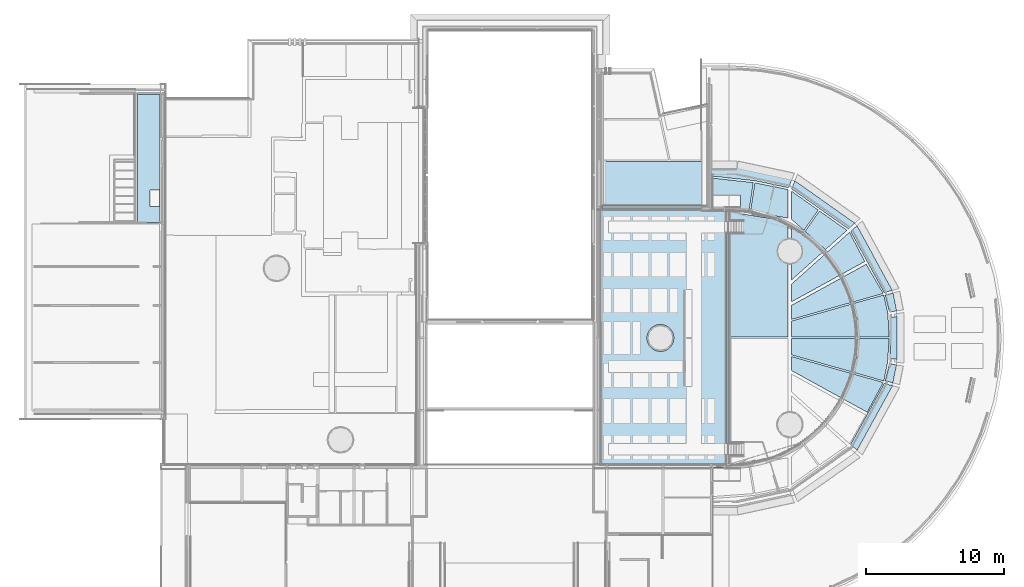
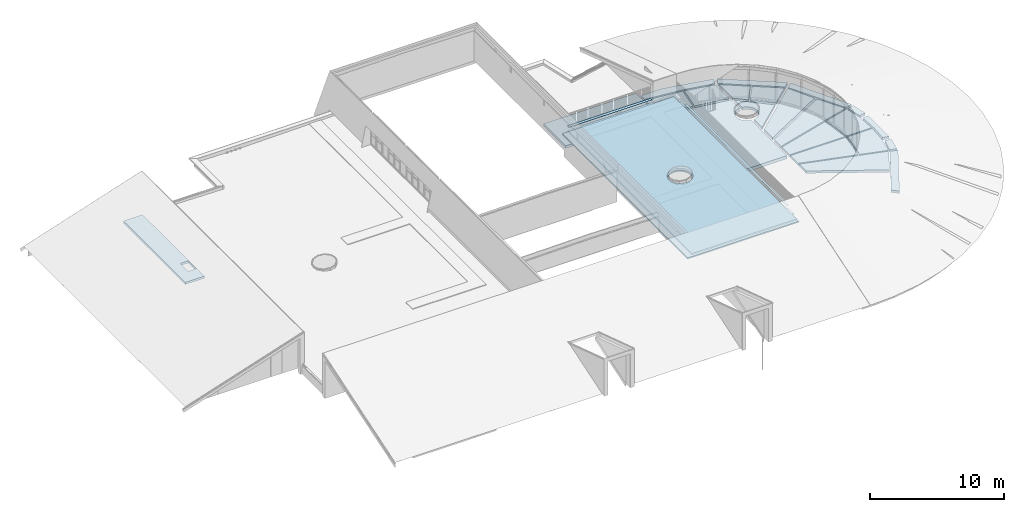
# One storey, part 14 of 66: 26 slabs, 4 openings.
"""IFC2X3 building model written with IfcOpenShell, lengths in millimetres."""

from ifc_helpers import new_model, entity, si_unit, converted_unit, derived_unit, direction, frame, frame_2d, origin, origin_2d_with_axis, place, context, subcontext, project, spatial, polyline, circle_curve, parameter, trimmed, segment, composite_curve, rectangle, circle, outline, extrude, clip, halfspace, material, layer, layer_set, layer_usage, type_object, element, save


model = new_model("IFC2X3")

# Units and contexts
model_context = context("Model", 3, precision=0.01, world=origin(), true_north=direction((6.12303176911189e-17, 1.0)))
body_context = subcontext(model_context, "Body", "Model", "MODEL_VIEW")
ifc_project = project(units=[si_unit("LENGTHUNIT", "METRE", prefix="MILLI"), si_unit("AREAUNIT", "SQUARE_METRE"), si_unit("VOLUMEUNIT", "CUBIC_METRE"), converted_unit("PLANEANGLEUNIT", "DEGREE", entity("IfcRatioMeasure", 0.0174532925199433), si_unit("PLANEANGLEUNIT", "RADIAN"), dimensions=[0, 0, 0, 0, 0, 0, 0]), si_unit("MASSUNIT", "GRAM", prefix="KILO"), derived_unit("MASSDENSITYUNIT", [(si_unit("MASSUNIT", "GRAM", prefix="KILO"), 1), (si_unit("LENGTHUNIT", "METRE"), -3)]), derived_unit("MOMENTOFINERTIAUNIT", [(si_unit("LENGTHUNIT", "METRE"), 4)]), si_unit("TIMEUNIT", "SECOND"), si_unit("FREQUENCYUNIT", "HERTZ"), si_unit("THERMODYNAMICTEMPERATUREUNIT", "DEGREE_CELSIUS"), derived_unit("THERMALTRANSMITTANCEUNIT", [(si_unit("MASSUNIT", "GRAM", prefix="KILO"), 1), (si_unit("THERMODYNAMICTEMPERATUREUNIT", "KELVIN"), -1), (si_unit("TIMEUNIT", "SECOND"), -3)]), derived_unit("VOLUMETRICFLOWRATEUNIT", [(si_unit("LENGTHUNIT", "METRE"), 3), (si_unit("TIMEUNIT", "SECOND"), -1)]), si_unit("ELECTRICCURRENTUNIT", "AMPERE"), si_unit("ELECTRICVOLTAGEUNIT", "VOLT"), si_unit("POWERUNIT", "WATT"), si_unit("FORCEUNIT", "NEWTON", prefix="KILO"), si_unit("ILLUMINANCEUNIT", "LUX"), si_unit("LUMINOUSFLUXUNIT", "LUMEN"), si_unit("LUMINOUSINTENSITYUNIT", "CANDELA"), derived_unit("USERDEFINED", [(si_unit("MASSUNIT", "GRAM", prefix="KILO"), -1), (si_unit("LENGTHUNIT", "METRE"), -2), (si_unit("TIMEUNIT", "SECOND"), 3), (si_unit("LUMINOUSFLUXUNIT", "LUMEN"), 1)]), derived_unit("LINEARVELOCITYUNIT", [(si_unit("LENGTHUNIT", "METRE"), 1), (si_unit("TIMEUNIT", "SECOND"), -1)]), si_unit("PRESSUREUNIT", "PASCAL"), derived_unit("USERDEFINED", [(si_unit("LENGTHUNIT", "METRE"), -2), (si_unit("MASSUNIT", "GRAM", prefix="KILO"), 1), (si_unit("TIMEUNIT", "SECOND"), -2)]), derived_unit("LINEARFORCEUNIT", [(si_unit("MASSUNIT", "GRAM", prefix="KILO"), 1), (si_unit("LENGTHUNIT", "METRE"), 1), (si_unit("TIMEUNIT", "SECOND"), -2), (si_unit("LENGTHUNIT", "METRE"), -1)]), derived_unit("PLANARFORCEUNIT", [(si_unit("MASSUNIT", "GRAM", prefix="KILO"), 1), (si_unit("LENGTHUNIT", "METRE"), 1), (si_unit("TIMEUNIT", "SECOND"), -2), (si_unit("LENGTHUNIT", "METRE"), -2)])], contexts=[model_context])

# Site, building, storey
site_placement = place(None, origin())
site = spatial("IfcSite", under=ifc_project, at=site_placement, Name="Default", CompositionType="ELEMENT")
building_placement = place(site_placement, origin())
building = spatial("IfcBuilding", under=site, at=building_placement, Name="-", CompositionType="ELEMENT")
storey_placement = place(building_placement, frame((0.0, 0.0, 3070.0)))
storey = spatial("IfcBuildingStorey", under=building, at=storey_placement, Name="01 eerste verdieping", CompositionType="ELEMENT", Elevation=3070.00000000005)

# Slab, opening
ifc_material_1 = material(Name="NLRS_h3_staal_verzinkt")
ifc_layer_1 = layer(ifc_material_1, 108.0)
ifc_layer_set_1 = layer_set([ifc_layer_1], Name="Floor:NLRS_23_FL_Trampeziumplaat 106R/750")
ifc_layer_usage_1 = layer_usage(ifc_layer_set_1, "AXIS3", "POSITIVE", 0.0)
slab_type_1 = type_object("IfcSlabType", Name="Floor:NLRS_23_FL_Trampeziumplaat 106R/750", PredefinedType="FLOOR", material=ifc_layer_set_1)
slab_1_placement = place(storey_placement, frame((40907.0668104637, 10235.124095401, 1282.0)))
slab_1 = element("IfcSlab", 1, at=slab_1_placement, inside=storey, type_object=slab_type_1, material=ifc_layer_usage_1, Name="Floor:NLRS_23_FL_Trampeziumplaat 106R/750", ObjectType="Floor:NLRS_23_FL_Trampeziumplaat 106R/750", PredefinedType="FLOOR", context=body_context, shape_type="SweptSolid", body=[
    extrude(rectangle(XDim=9607.05357967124, YDim=18721.2079896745, at=frame_2d((0.0, 0.0), x_axis=(-1.0, 0.0))), frame((4803.52678983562, 9360.60399483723, 108.0), z_axis=(0.0, 0.0, -1.0), x_axis=(-1.0, 0.0, 0.0)), (0.0, 0.0, 1.0), 108.0),
])
opening_1_placement = place(slab_1_placement, frame((4772.29159026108, 9380.56093618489, 108.0)))
element("IfcOpeningElement", 2, at=opening_1_placement, cuts=slab_1, Name="Floor:NLRS_23_FL_Trampeziumplaat 106R/750:2", ObjectType="Opening", context=body_context, shape_type="SweptSolid", body=[
    extrude(circle(Radius=900.0, at=origin_2d_with_axis()), frame((0.0, 0.0, 0.0), z_axis=(0.0, 0.0, -1.0), x_axis=(1.0, 0.0, 0.0)), (0.0, 0.0, 1.0), 108.0),
])

# Slab, openings
ifc_material_2 = material(Name="NLRS_n7_isolatie PIR_gen")
ifc_layer_2 = layer(ifc_material_2, 140.0)
ifc_layer_set_2 = layer_set([ifc_layer_2], Name="Floor:NLRS_23_FL_Pir dakisolatie 140mm")
ifc_layer_usage_2 = layer_usage(ifc_layer_set_2, "AXIS3", "POSITIVE", 0.0)
slab_type_2 = type_object("IfcSlabType", Name="Floor:NLRS_23_FL_Pir dakisolatie 140mm", PredefinedType="FLOOR", material=ifc_layer_set_2)
slab_2_placement = place(storey_placement, frame((41367.6645167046, 10402.124095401, 1390.0)))
slab_2 = element("IfcSlab", 3, at=slab_2_placement, inside=storey, type_object=slab_type_2, material=ifc_layer_usage_2, Name="Floor:NLRS_23_FL_Pir dakisolatie 140mm", ObjectType="Floor:NLRS_23_FL_Pir dakisolatie 140mm", PredefinedType="FLOOR", context=body_context, shape_type="SweptSolid", body=[
    extrude(outline(polyline([(-3258.2279367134, 9277.29134352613), (-3258.2279367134, 9177.79134352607), (-4466.72793671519, 9177.79134352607), (-4466.72793671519, 8401.5811575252), (-4615.72793671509, 8401.5811575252), (-4615.72793671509, 7551.58115752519), (-4466.72793671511, 7551.58115752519), (-4466.72793671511, -7698.41884247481), (-4615.72793671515, -7698.41884247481), (-4615.72793671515, -8548.41884247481), (-4466.72793671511, -8548.41884247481), (-4466.72793671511, -9277.29134352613), (4615.72793671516, -9277.29134352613), (4615.72793671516, 9277.29134352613), (-3258.2279367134, 9277.29134352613)])), frame((4615.72793671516, 9277.29134352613, 140.0), z_axis=(0.0, 0.0, -1.0), x_axis=(-1.0, 0.0, 0.0)), (0.0, 0.0, 1.0), 140.0),
])
opening_2_placement = place(slab_2_placement, origin())
element("IfcOpeningElement", 4, at=opening_2_placement, cuts=slab_2, ObjectType="Opening", context=body_context, shape_type="SweptSolid", body=[
    extrude(rectangle(XDim=2278.80772812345, YDim=360.0, at=origin_2d_with_axis()), frame((8438.3020093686, 18595.3712671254, -1390.0)), (0.0, 0.0, 1.0), 4477.65236779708),
])
opening_3_placement = place(slab_2_placement, frame((4311.69388402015, 9213.93563356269, 140.0)))
element("IfcOpeningElement", 5, at=opening_3_placement, cuts=slab_2, Name="Floor:NLRS_23_FL_Pir dakisolatie 140mm:2", ObjectType="Opening", context=body_context, shape_type="SweptSolid", body=[
    extrude(circle(Radius=970.0, at=origin_2d_with_axis()), frame((0.0, 0.0, 0.0), z_axis=(0.0, 0.0, -1.0), x_axis=(1.0, 0.0, 0.0)), (0.0, 0.0, 1.0), 140.0),
])

# Slabs
ifc_material_3 = material(Name="NLRS_n2_bitumen_dak bedekking")
ifc_layer_3 = layer(ifc_material_3, 6.0)
ifc_layer_set_3 = layer_set([ifc_layer_3], Name="Floor:NLRS_23_FL_Bitumen dakbedekking")
ifc_layer_usage_3 = layer_usage(ifc_layer_set_3, "AXIS3", "POSITIVE", 0.0)
slab_type_3 = type_object("IfcSlabType", Name="Floor:NLRS_23_FL_Bitumen dakbedekking", PredefinedType="FLOOR", material=ifc_layer_set_3)
slab_3_placement = place(storey_placement, origin())
element("IfcSlab", 6, at=slab_3_placement, inside=storey, type_object=slab_type_3, material=ifc_layer_usage_3, Name="Floor:NLRS_23_FL_Bitumen dakbedekking", ObjectType="Floor:NLRS_23_FL_Bitumen dakbedekking", PredefinedType="FLOOR", context=body_context, shape_type="Clipping", body=[
    clip(clip(extrude(rectangle(XDim=240.208242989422, YDim=7191.40535418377, at=frame_2d((0.0, -4.32009983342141e-12), x_axis=(1.0, 0.0))), frame((45070.8599849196, 29076.7067824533, 1755.0), z_axis=(0.0, 0.0416305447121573, -0.999133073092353), x_axis=(0.0, 0.999133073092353, 0.0416305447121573)), (-0.0416305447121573, 0.0, 0.999133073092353), 6.00520607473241), halfspace(frame((45070.8599849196, 29076.7067824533, 1749.0), z_axis=(0.0, 0.0416305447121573, -0.999133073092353), x_axis=(0.0, -0.999133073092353, -0.0416305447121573)), False)), halfspace(frame((45070.8599849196, 29076.7067824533, 1755.0), z_axis=(0.0, -0.0416305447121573, 0.999133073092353), x_axis=(0.0, -0.999133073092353, -0.0416305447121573)), False)),
])
ifc_layer_usage_4 = layer_usage(ifc_layer_set_3, "AXIS3", "POSITIVE", 0.0)
slab_type_4 = type_object("IfcSlabType", Name="Floor:NLRS_23_FL_Bitumen dakbedekking", PredefinedType="FLOOR", material=ifc_layer_set_3)
slab_4_placement = place(storey_placement, origin())
element("IfcSlab", 7, at=slab_4_placement, inside=storey, type_object=slab_type_4, material=ifc_layer_usage_4, Name="Floor:NLRS_23_FL_Bitumen dakbedekking", ObjectType="Floor:NLRS_23_FL_Bitumen dakbedekking", PredefinedType="FLOOR", context=body_context, shape_type="SweptSolid", body=[
    extrude(rectangle(XDim=15250.0, YDim=212.000000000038, at=frame_2d((-2.27373675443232e-12, -3.46531692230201e-11), x_axis=(1.0, 0.0))), frame((50556.1203901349, 19605.9965964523, 1750.04321141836), z_axis=(0.0, 0.0, -1.0), x_axis=(0.0, 1.0, 0.0)), (0.0, 0.0, 1.0), 6.00000000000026),
])

# Slab, opening
ifc_material_4 = material(Name="NLRS_i2_hout naaldhout vuren_gen")
ifc_layer_4 = layer(ifc_material_4, 196.0)
ifc_layer_set_4 = layer_set([ifc_layer_4], Name="Floor:NLRS_23_FL_Houten balk laag 196mm")
ifc_layer_usage_5 = layer_usage(ifc_layer_set_4, "AXIS3", "POSITIVE", 0.0)
slab_type_5 = type_object("IfcSlabType", Name="Floor:NLRS_23_FL_Houten balk laag 196mm", PredefinedType="FLOOR", material=ifc_layer_set_4)
slab_5_placement = place(storey_placement, frame((7800.03026943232, 27992.4865767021, -214.0)))
slab_5 = element("IfcSlab", 8, at=slab_5_placement, inside=storey, type_object=slab_type_5, material=ifc_layer_usage_5, Name="Floor:NLRS_23_FL_Houten balk laag 196mm", ObjectType="Floor:NLRS_23_FL_Houten balk laag 196mm", PredefinedType="FLOOR", context=body_context, shape_type="SweptSolid", body=[
    extrude(rectangle(XDim=1649.96973056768, YDim=9252.00000000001, at=origin_2d_with_axis()), frame((824.984865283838, 4626.0, 196.0), z_axis=(0.0, 0.0, -1.0), x_axis=(-1.0, 0.0, 0.0)), (0.0, 0.0, 1.0), 196.0),
])
opening_4_placement = place(slab_5_placement, frame((1254.96973056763, 1733.00622316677, 196.0)))
element("IfcOpeningElement", 9, at=opening_4_placement, cuts=slab_5, Name="Floor:NLRS_23_FL_Houten balk laag 196mm:2", ObjectType="Opening", context=body_context, shape_type="SweptSolid", body=[
    extrude(rectangle(XDim=1190.0, YDim=689.999999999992, at=origin_2d_with_axis()), frame((0.0, 0.0, 0.0), z_axis=(0.0, 0.0, -1.0), x_axis=(0.0, -1.0, 0.0)), (0.0, 0.0, 1.0), 196.0),
])

# Slabs
ifc_material_5 = material(Name="NLRS_i4_hout_multiplex")
ifc_layer_5 = layer(ifc_material_5, 18.0)
ifc_layer_6 = layer(ifc_material_4, 271.0)
ifc_layer_set_5 = layer_set([ifc_layer_5, ifc_layer_6], Name="Floor:NLRS_23_FL_Houten balk laag 271mm met multiplex")
ifc_layer_usage_6 = layer_usage(ifc_layer_set_5, "AXIS3", "POSITIVE", 0.0)
slab_type_6 = type_object("IfcSlabType", Name="Floor:NLRS_23_FL_Houten balk laag 271mm met multiplex", PredefinedType="FLOOR", material=ifc_layer_set_5)
slab_6_placement = place(storey_placement, origin())
element("IfcSlab", 10, at=slab_6_placement, inside=storey, type_object=slab_type_6, material=ifc_layer_usage_6, Name="Floor:NLRS_23_FL_Houten balk laag 271mm met multiplex", ObjectType="Floor:NLRS_23_FL_Houten balk laag 271mm met multiplex", PredefinedType="FLOOR", context=body_context, shape_type="SweptSolid", body=[
    extrude(outline(composite_curve([segment(polyline([(-3392.31329752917, 1472.66919885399), (-4118.0121933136, -2945.33839770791)]), True, "CONTINUOUS"), segment(polyline([(-4118.01219331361, -2945.3383977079), (4992.32607995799, -2945.3383977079)]), True, "CONTINUOUS"), segment(polyline([(4992.32607995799, -2945.33839770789), (4992.32607995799, 1472.66919885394)]), True, "CONTINUOUS"), segment(polyline([(4992.32607995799, 1472.66919885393), (-345.486637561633, 1472.66919885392)]), True, "CONTINUOUS"), segment(trimmed(circle_curve(frame_2d((-1237.16333453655, 1594.78663443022), x_axis=(-0.99075188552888, -0.13568603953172)), 900.000000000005), [parameter(0.0)], [parameter(164.403415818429)], True, "PARAMETER"), False, "CONTINUOUS"), segment(polyline([(-2128.84003151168, 1472.669198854), (-3392.31329752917, 1472.669198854)]), True, "CONTINUOUS")], self_intersect=False)), frame((53464.4587878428, 24663.3858089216, 100.0), z_axis=(0.0, 0.0, 1.0), x_axis=(0.0, -1.0, 0.0)), (0.0, 0.0, -1.0), 289.0),
])
ifc_layer_7 = layer(ifc_material_4, 221.0)
ifc_layer_set_6 = layer_set([ifc_layer_7], Name="Floor:NLRS_23_FL_Houten balk laag 221mm")
ifc_layer_usage_7 = layer_usage(ifc_layer_set_6, "AXIS3", "POSITIVE", 0.0)
slab_type_7 = type_object("IfcSlabType", Name="Floor:NLRS_23_FL_Houten balk laag 221mm", PredefinedType="FLOOR", material=ifc_layer_set_6)
slab_7_placement = place(storey_placement, origin())
element("IfcSlab", 11, at=slab_7_placement, inside=storey, type_object=slab_type_7, material=ifc_layer_usage_7, Name="Floor:NLRS_23_FL_Houten balk laag 221mm", ObjectType="Floor:NLRS_23_FL_Houten balk laag 221mm", PredefinedType="FLOOR", context=body_context, shape_type="SweptSolid", body=[
    extrude(outline(polyline([(12.4997273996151, -1663.15129844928), (1271.89547079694, -1663.15129844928), (935.675566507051, 1385.11074148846), (-1167.46399273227, 1062.4944523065), (-1065.10649937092, 439.348701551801), (12.4997273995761, 439.348701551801), (12.4997273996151, -1663.15129844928)])), frame((51024.7716885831, 29934.4956351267, 82.0), z_axis=(0.0, 0.0, -1.0), x_axis=(0.0, 1.0, 0.0)), (0.0, 0.0, 1.0), 221.0),
])
ifc_layer_usage_8 = layer_usage(ifc_layer_set_6, "AXIS3", "POSITIVE", 0.0)
slab_type_8 = type_object("IfcSlabType", Name="Floor:NLRS_23_FL_Houten balk laag 221mm", PredefinedType="FLOOR", material=ifc_layer_set_6)
slab_8_placement = place(storey_placement, origin())
element("IfcSlab", 12, at=slab_8_placement, inside=storey, type_object=slab_type_8, material=ifc_layer_usage_8, Name="Floor:NLRS_23_FL_Houten balk laag 221mm", ObjectType="Floor:NLRS_23_FL_Houten balk laag 221mm", PredefinedType="FLOOR", context=body_context, shape_type="SweptSolid", body=[
    extrude(outline(polyline([(-798.507201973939, -1286.44717373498), (1267.83735278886, -1286.44717373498), (818.674533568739, 1448.02680567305), (-1288.00468438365, 1124.86754179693), (-798.507201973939, -1286.44717373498)])), frame((53643.8444464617, 29567.8755810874, 82.0), z_axis=(0.0, 0.0, -1.0), x_axis=(0.0, -1.0, 0.0)), (0.0, 0.0, 1.0), 221.0),
])
ifc_layer_usage_9 = layer_usage(ifc_layer_set_6, "AXIS3", "POSITIVE", 0.0)
slab_type_9 = type_object("IfcSlabType", Name="Floor:NLRS_23_FL_Houten balk laag 221mm", PredefinedType="FLOOR", material=ifc_layer_set_6)
slab_9_placement = place(storey_placement, origin())
element("IfcSlab", 13, at=slab_9_placement, inside=storey, type_object=slab_type_9, material=ifc_layer_usage_9, Name="Floor:NLRS_23_FL_Houten balk laag 221mm", ObjectType="Floor:NLRS_23_FL_Houten balk laag 221mm", PredefinedType="FLOOR", context=body_context, shape_type="SweptSolid", body=[
    extrude(outline(polyline([(-480.596640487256, -707.396368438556), (1561.45442916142, -707.396368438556), (196.31586697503, 1227.18924394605), (-1277.17365564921, 187.603492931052), (-480.596640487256, -707.396368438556)])), frame((55884.5243551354, 28685.0111625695, 82.0), z_axis=(0.0, 0.0, -1.0), x_axis=(0.0, 1.0, 0.0)), (0.0, 0.0, 1.0), 221.0),
])
ifc_layer_usage_10 = layer_usage(ifc_layer_set_6, "AXIS3", "POSITIVE", 0.0)
slab_type_10 = type_object("IfcSlabType", Name="Floor:NLRS_23_FL_Houten balk laag 221mm", PredefinedType="FLOOR", material=ifc_layer_set_6)
slab_10_placement = place(storey_placement, origin())
element("IfcSlab", 14, at=slab_10_placement, inside=storey, type_object=slab_type_10, material=ifc_layer_usage_10, Name="Floor:NLRS_23_FL_Houten balk laag 221mm", ObjectType="Floor:NLRS_23_FL_Houten balk laag 221mm", PredefinedType="FLOOR", context=body_context, shape_type="SweptSolid", body=[
    extrude(outline(composite_curve([segment(polyline([(-2065.03412549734, 458.845272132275), (-12.2836152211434, -1835.38108852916)]), True, "CONTINUOUS"), segment(polyline([(-12.283615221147, -1835.38108852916), (2029.64741221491, 458.845272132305)]), True, "CONTINUOUS"), segment(polyline([(2029.64741221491, 458.845272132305), (916.652510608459, 458.845272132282)]), True, "CONTINUOUS"), segment(trimmed(circle_curve(frame_2d((23.835164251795, 572.322961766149), x_axis=(-0.992019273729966, -0.126086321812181)), 900.0), [parameter(0.0)], [parameter(165.513012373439)], True, "PARAMETER"), False, "CONTINUOUS"), segment(polyline([(-868.982182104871, 458.845272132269), (-2065.03412549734, 458.845272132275)]), True, "CONTINUOUS")], self_intersect=False)), frame((55635.9732588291, 25880.2501283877, 82.0), z_axis=(0.0, 0.0, 1.0), x_axis=(0.0, 1.0, 0.0)), (0.0, 0.0, -1.0), 221.0),
])
ifc_layer_usage_11 = layer_usage(ifc_layer_set_6, "AXIS3", "POSITIVE", 0.0)
slab_type_11 = type_object("IfcSlabType", Name="Floor:NLRS_23_FL_Houten balk laag 221mm", PredefinedType="FLOOR", material=ifc_layer_set_6)
slab_11_placement = place(storey_placement, origin())
element("IfcSlab", 15, at=slab_11_placement, inside=storey, type_object=slab_type_11, material=ifc_layer_usage_11, Name="Floor:NLRS_23_FL_Houten balk laag 221mm", ObjectType="Floor:NLRS_23_FL_Houten balk laag 221mm", PredefinedType="FLOOR", context=body_context, shape_type="SweptSolid", body=[
    extrude(outline(polyline([(-2312.81758700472, -2375.94232121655), (-1025.26511149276, -2375.94232121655), (2732.27077118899, 1823.61229100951), (605.811927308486, 2928.27235142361), (-2312.81758700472, -2375.94232121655)])), frame((57553.0703079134, 24545.2733364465, 82.0), z_axis=(0.0, 0.0, -1.0), x_axis=(0.0, 1.0, 0.0)), (0.0, 0.0, 1.0), 221.0),
])
ifc_layer_usage_12 = layer_usage(ifc_layer_set_6, "AXIS3", "POSITIVE", 0.0)
slab_type_12 = type_object("IfcSlabType", Name="Floor:NLRS_23_FL_Houten balk laag 221mm", PredefinedType="FLOOR", material=ifc_layer_set_6)
slab_12_placement = place(storey_placement, origin())
element("IfcSlab", 16, at=slab_12_placement, inside=storey, type_object=slab_type_12, material=ifc_layer_usage_12, Name="Floor:NLRS_23_FL_Houten balk laag 221mm", ObjectType="Floor:NLRS_23_FL_Houten balk laag 221mm", PredefinedType="FLOOR", context=body_context, shape_type="SweptSolid", body=[
    extrude(outline(polyline([(-1726.86440109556, -3013.42206357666), (-702.135681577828, -3013.42206357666), (2274.88730092, 2396.91484527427), (154.112781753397, 3629.92928187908), (-1726.86440109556, -3013.42206357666)])), frame((58190.5500502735, 22683.4855443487, 82.0), z_axis=(0.0, 0.0, -1.0), x_axis=(0.0, 1.0, 0.0)), (0.0, 0.0, 1.0), 221.0),
])
ifc_layer_usage_13 = layer_usage(ifc_layer_set_6, "AXIS3", "POSITIVE", 0.0)
slab_type_13 = type_object("IfcSlabType", Name="Floor:NLRS_23_FL_Houten balk laag 221mm", PredefinedType="FLOOR", material=ifc_layer_set_6)
slab_13_placement = place(storey_placement, origin())
element("IfcSlab", 17, at=slab_13_placement, inside=storey, type_object=slab_type_13, material=ifc_layer_usage_13, Name="Floor:NLRS_23_FL_Houten balk laag 221mm", ObjectType="Floor:NLRS_23_FL_Houten balk laag 221mm", PredefinedType="FLOOR", context=body_context, shape_type="SweptSolid", body=[
    extrude(outline(polyline([(-1027.54110758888, -1446.13835587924), (1132.41581503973, -1446.13835587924), (1476.54709081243, 1017.68130508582), (-643.125642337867, 1617.83864117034), (-938.296155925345, 256.756765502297), (-1027.54110758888, -1446.13835587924)])), frame((61218.8974312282, 21117.1980848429, 82.0), z_axis=(0.0, 0.0, -1.0), x_axis=(-1.0, 0.0, 0.0)), (0.0, 0.0, 1.0), 221.0),
])
ifc_layer_usage_14 = layer_usage(ifc_layer_set_6, "AXIS3", "POSITIVE", 0.0)
slab_type_14 = type_object("IfcSlabType", Name="Floor:NLRS_23_FL_Houten balk laag 221mm", PredefinedType="FLOOR", material=ifc_layer_set_6)
slab_14_placement = place(storey_placement, origin())
element("IfcSlab", 18, at=slab_14_placement, inside=storey, type_object=slab_type_14, material=ifc_layer_usage_14, Name="Floor:NLRS_23_FL_Houten balk laag 221mm", ObjectType="Floor:NLRS_23_FL_Houten balk laag 221mm", PredefinedType="FLOOR", context=body_context, shape_type="SweptSolid", body=[
    extrude(outline(polyline([(-1125.48359728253, -1446.45509291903), (1029.47121113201, -1446.45509291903), (920.316313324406, 256.252655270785), (647.627591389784, 1618.00757401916), (-1471.93151856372, 1018.64995654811), (-1125.48359728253, -1446.45509291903)])), frame((61215.3255404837, 18114.6046360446, 82.0), z_axis=(0.0, 0.0, -1.0), x_axis=(1.0, 0.0, 0.0)), (0.0, 0.0, 1.0), 221.0),
])
ifc_layer_usage_15 = layer_usage(ifc_layer_set_6, "AXIS3", "POSITIVE", 0.0)
slab_type_15 = type_object("IfcSlabType", Name="Floor:NLRS_23_FL_Houten balk laag 221mm", PredefinedType="FLOOR", material=ifc_layer_set_6)
slab_15_placement = place(storey_placement, origin())
element("IfcSlab", 19, at=slab_15_placement, inside=storey, type_object=slab_type_15, material=ifc_layer_usage_15, Name="Floor:NLRS_23_FL_Houten balk laag 221mm", ObjectType="Floor:NLRS_23_FL_Houten balk laag 221mm", PredefinedType="FLOOR", context=body_context, shape_type="SweptSolid", body=[
    extrude(outline(polyline([(711.126054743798, -3032.49210346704), (1737.84721010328, -3032.49210346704), (-144.68914603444, 3614.42133369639), (-2304.28411881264, 2450.56287323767), (711.126054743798, -3032.49210346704)])), frame((58209.6200901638, 16538.0105276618, 82.0), z_axis=(0.0, 0.0, -1.0), x_axis=(0.0, 1.0, 0.0)), (0.0, 0.0, 1.0), 221.0),
])
ifc_layer_usage_16 = layer_usage(ifc_layer_set_6, "AXIS3", "POSITIVE", 0.0)
slab_type_16 = type_object("IfcSlabType", Name="Floor:NLRS_23_FL_Houten balk laag 221mm", PredefinedType="FLOOR", material=ifc_layer_set_6)
slab_16_placement = place(storey_placement, origin())
element("IfcSlab", 20, at=slab_16_placement, inside=storey, type_object=slab_type_16, material=ifc_layer_usage_16, Name="Floor:NLRS_23_FL_Houten balk laag 221mm", ObjectType="Floor:NLRS_23_FL_Houten balk laag 221mm", PredefinedType="FLOOR", context=body_context, shape_type="SweptSolid", body=[
    extrude(rectangle(XDim=3329.03504939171, YDim=8000.55357966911, at=frame_2d((2.1600499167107e-12, 0.0), x_axis=(1.0, 0.0))), frame((45246.3436003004, 30719.224307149, 82.0), z_axis=(0.0, 0.0, -1.0), x_axis=(0.0, 1.0, 0.0)), (0.0, 0.0, 1.0), 221.0),
])
ifc_layer_usage_17 = layer_usage(ifc_layer_set_6, "AXIS3", "POSITIVE", 0.0)
slab_type_17 = type_object("IfcSlabType", Name="Floor:NLRS_23_FL_Houten balk laag 221mm", PredefinedType="FLOOR", material=ifc_layer_set_6)
slab_17_placement = place(storey_placement, origin())
element("IfcSlab", 21, at=slab_17_placement, inside=storey, type_object=slab_type_17, material=ifc_layer_usage_17, Name="Floor:NLRS_23_FL_Houten balk laag 221mm", ObjectType="Floor:NLRS_23_FL_Houten balk laag 221mm", PredefinedType="FLOOR", context=body_context, shape_type="SweptSolid", body=[
    extrude(outline(polyline([(-899.620161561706, -2302.77564892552), (271.617091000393, -2302.77564892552), (1527.6232321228, 2133.26438580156), (-899.620161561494, 2472.28691204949), (-899.620161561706, -2302.77564892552)])), frame((57479.9036356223, 20570.6798905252, 82.0), z_axis=(0.0, 0.0, -1.0), x_axis=(0.0, 1.0, 0.0)), (0.0, 0.0, 1.0), 221.0),
])
ifc_layer_usage_18 = layer_usage(ifc_layer_set_6, "AXIS3", "POSITIVE", 0.0)
slab_type_18 = type_object("IfcSlabType", Name="Floor:NLRS_23_FL_Houten balk laag 221mm", PredefinedType="FLOOR", material=ifc_layer_set_6)
slab_18_placement = place(storey_placement, origin())
element("IfcSlab", 22, at=slab_18_placement, inside=storey, type_object=slab_type_18, material=ifc_layer_usage_18, Name="Floor:NLRS_23_FL_Houten balk laag 221mm", ObjectType="Floor:NLRS_23_FL_Houten balk laag 221mm", PredefinedType="FLOOR", context=body_context, shape_type="SweptSolid", body=[
    extrude(outline(polyline([(-271.259883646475, -2303.90968622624), (899.61546309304, -2303.90968622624), (899.615463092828, 2474.49720313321), (-1527.9710425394, 2133.32216931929), (-271.259883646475, -2303.90968622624)])), frame((57481.037672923, 18661.4442658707, 82.0), z_axis=(0.0, 0.0, -1.0), x_axis=(0.0, 1.0, 0.0)), (0.0, 0.0, 1.0), 221.0),
])
ifc_layer_usage_19 = layer_usage(ifc_layer_set_6, "AXIS3", "POSITIVE", 0.0)
slab_type_19 = type_object("IfcSlabType", Name="Floor:NLRS_23_FL_Houten balk laag 221mm", PredefinedType="FLOOR", material=ifc_layer_set_6)
slab_19_placement = place(storey_placement, origin())
element("IfcSlab", 23, at=slab_19_placement, inside=storey, type_object=slab_type_19, material=ifc_layer_usage_19, Name="Floor:NLRS_23_FL_Houten balk laag 221mm", ObjectType="Floor:NLRS_23_FL_Houten balk laag 221mm", PredefinedType="FLOOR", context=body_context, shape_type="SweptSolid", body=[
    extrude(outline(polyline([(-1101.20387427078, -962.382781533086), (1339.35281372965, -962.382781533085), (866.111600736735, 1075.72378434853), (-1104.26054019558, 849.041778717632), (-1101.20387427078, -962.382781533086)])), frame((57546.4838479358, 27393.7473942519, 82.0), z_axis=(0.0, 0.0, -1.0), x_axis=(0.818076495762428, -0.575109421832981, 0.0)), (0.0, 0.0, 1.0), 221.0),
])
ifc_layer_usage_20 = layer_usage(ifc_layer_set_6, "AXIS3", "POSITIVE", 0.0)
slab_type_20 = type_object("IfcSlabType", Name="Floor:NLRS_23_FL_Houten balk laag 221mm", PredefinedType="FLOOR", material=ifc_layer_set_6)
slab_20_placement = place(storey_placement, origin())
element("IfcSlab", 24, at=slab_20_placement, inside=storey, type_object=slab_type_20, material=ifc_layer_usage_20, Name="Floor:NLRS_23_FL_Houten balk laag 221mm", ObjectType="Floor:NLRS_23_FL_Houten balk laag 221mm", PredefinedType="FLOOR", context=body_context, shape_type="SweptSolid", body=[
    extrude(outline(polyline([(-2668.95226997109, -308.90057842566), (2669.41203432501, -308.90057842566), (2526.40580232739, 311.256607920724), (-2526.8655666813, 306.544548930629), (-2668.95226997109, -308.90057842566)])), frame((60939.7023062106, 13966.4248459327, 82.0), z_axis=(0.0, 0.0, -1.0), x_axis=(-0.48194527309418, -0.876201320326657, 0.0)), (0.0, 0.0, 1.0), 221.0),
])
ifc_layer_usage_21 = layer_usage(ifc_layer_set_6, "AXIS3", "POSITIVE", 0.0)
slab_type_21 = type_object("IfcSlabType", Name="Floor:NLRS_23_FL_Houten balk laag 221mm", PredefinedType="FLOOR", material=ifc_layer_set_6)
slab_21_placement = place(storey_placement, origin())
element("IfcSlab", 25, at=slab_21_placement, inside=storey, type_object=slab_type_21, material=ifc_layer_usage_21, Name="Floor:NLRS_23_FL_Houten balk laag 221mm", ObjectType="Floor:NLRS_23_FL_Houten balk laag 221mm", PredefinedType="FLOOR", context=body_context, shape_type="SweptSolid", body=[
    extrude(outline(polyline([(-213.795027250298, -647.456114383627), (304.641606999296, -647.456114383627), (241.544124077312, 683.461998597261), (-332.390703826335, 611.450230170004), (-213.795027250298, -647.456114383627)])), frame((62382.1298808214, 17071.1373565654, 82.0), z_axis=(0.0, 0.0, -1.0), x_axis=(0.988596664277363, -0.15058763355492, 0.0)), (0.0, 0.0, 1.0), 221.0),
])
ifc_layer_usage_22 = layer_usage(ifc_layer_set_6, "AXIS3", "POSITIVE", 0.0)
slab_type_22 = type_object("IfcSlabType", Name="Floor:NLRS_23_FL_Houten balk laag 221mm", PredefinedType="FLOOR", material=ifc_layer_set_6)
slab_22_placement = place(storey_placement, origin())
element("IfcSlab", 26, at=slab_22_placement, inside=storey, type_object=slab_type_22, material=ifc_layer_usage_22, Name="Floor:NLRS_23_FL_Houten balk laag 221mm", ObjectType="Floor:NLRS_23_FL_Houten balk laag 221mm", PredefinedType="FLOOR", context=body_context, shape_type="SweptSolid", body=[
    extrude(outline(polyline([(-1563.11660010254, -289.887655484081), (1547.30031808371, -289.887655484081), (1469.94584834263, 217.938710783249), (31.6432552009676, 143.917020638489), (-1485.77282152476, 217.919579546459), (-1563.11660010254, -289.887655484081)])), frame((62526.8193967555, 19608.1507333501, 82.0), z_axis=(0.0, 0.0, -1.0), x_axis=(0.0, -1.0, 0.0)), (0.0, 0.0, 1.0), 221.0),
])
ifc_layer_usage_23 = layer_usage(ifc_layer_set_6, "AXIS3", "POSITIVE", 0.0)
slab_type_23 = type_object("IfcSlabType", Name="Floor:NLRS_23_FL_Houten balk laag 221mm", PredefinedType="FLOOR", material=ifc_layer_set_6)
slab_23_placement = place(storey_placement, origin())
element("IfcSlab", 27, at=slab_23_placement, inside=storey, type_object=slab_type_23, material=ifc_layer_usage_23, Name="Floor:NLRS_23_FL_Houten balk laag 221mm", ObjectType="Floor:NLRS_23_FL_Houten balk laag 221mm", PredefinedType="FLOOR", context=body_context, shape_type="SweptSolid", body=[
    extrude(outline(polyline([(-670.267351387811, -277.985855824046), (658.183757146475, -277.985855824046), (634.915861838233, 245.089187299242), (-622.83226759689, 310.882524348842), (-670.267351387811, -277.985855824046)])), frame((62385.5558757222, 22162.8327332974, 82.0), z_axis=(0.0, 0.0, -1.0), x_axis=(0.19435639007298, -0.980930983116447, 0.0)), (0.0, 0.0, 1.0), 221.0),
])
ifc_layer_usage_24 = layer_usage(ifc_layer_set_6, "AXIS3", "POSITIVE", 0.0)
slab_type_24 = type_object("IfcSlabType", Name="Floor:NLRS_23_FL_Houten balk laag 221mm", PredefinedType="FLOOR", material=ifc_layer_set_6)
slab_24_placement = place(storey_placement, origin())
element("IfcSlab", 28, at=slab_24_placement, inside=storey, type_object=slab_type_24, material=ifc_layer_usage_24, Name="Floor:NLRS_23_FL_Houten balk laag 221mm", ObjectType="Floor:NLRS_23_FL_Houten balk laag 221mm", PredefinedType="FLOOR", context=body_context, shape_type="SweptSolid", body=[
    extrude(outline(polyline([(-2668.25839839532, -300.624086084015), (2663.64138511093, -300.624086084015), (2529.4093667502, 292.310448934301), (-2524.79235346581, 308.937723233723), (-2668.25839839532, -300.624086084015)])), frame((60933.1288502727, 25262.6694646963, 82.0), z_axis=(0.0, 0.0, -1.0), x_axis=(0.478208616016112, -0.878246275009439, 0.0)), (0.0, 0.0, 1.0), 221.0),
])
ifc_layer_usage_25 = layer_usage(ifc_layer_set_6, "AXIS3", "POSITIVE", 0.0)
slab_type_25 = type_object("IfcSlabType", Name="Floor:NLRS_23_FL_Houten balk laag 221mm", PredefinedType="FLOOR", material=ifc_layer_set_6)
slab_25_placement = place(storey_placement, origin())
element("IfcSlab", 29, at=slab_25_placement, inside=storey, type_object=slab_type_25, material=ifc_layer_usage_25, Name="Floor:NLRS_23_FL_Houten balk laag 221mm", ObjectType="Floor:NLRS_23_FL_Houten balk laag 221mm", PredefinedType="FLOOR", context=body_context, shape_type="SweptSolid", body=[
    extrude(outline(polyline([(-2660.43629920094, -307.410272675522), (2659.70058085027, -307.410272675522), (2518.49309661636, 304.971212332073), (-2517.7573782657, 309.849333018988), (-2660.43629920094, -307.410272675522)])), frame((57412.2726002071, 29213.533833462, 82.0), z_axis=(0.0, 0.0, -1.0), x_axis=(0.81711728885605, -0.576471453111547, 0.0)), (0.0, 0.0, 1.0), 221.0),
])
ifc_layer_usage_26 = layer_usage(ifc_layer_set_6, "AXIS3", "POSITIVE", 0.0)
slab_type_26 = type_object("IfcSlabType", Name="Floor:NLRS_23_FL_Houten balk laag 221mm", PredefinedType="FLOOR", material=ifc_layer_set_6)
slab_26_placement = place(storey_placement, origin())
element("IfcSlab", 30, at=slab_26_placement, inside=storey, type_object=slab_type_26, material=ifc_layer_usage_26, Name="Floor:NLRS_23_FL_Houten balk laag 221mm", ObjectType="Floor:NLRS_23_FL_Houten balk laag 221mm", PredefinedType="FLOOR", context=body_context, shape_type="SweptSolid", body=[
    extrude(outline(polyline([(45.8103110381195, -2720.599061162), (630.170758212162, -2720.599061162), (630.170758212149, -865.979674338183), (-216.315493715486, 3083.4895969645), (-793.852464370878, 2845.48730186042), (-295.983869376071, 378.20089783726), (45.8103110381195, -2720.599061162)])), frame((52110.2194512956, 31298.3414606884, 82.0), z_axis=(0.0, 0.0, -1.0), x_axis=(0.0, 1.0, 0.0)), (0.0, 0.0, 1.0), 221.0),
])

save(model, "model.ifc")
